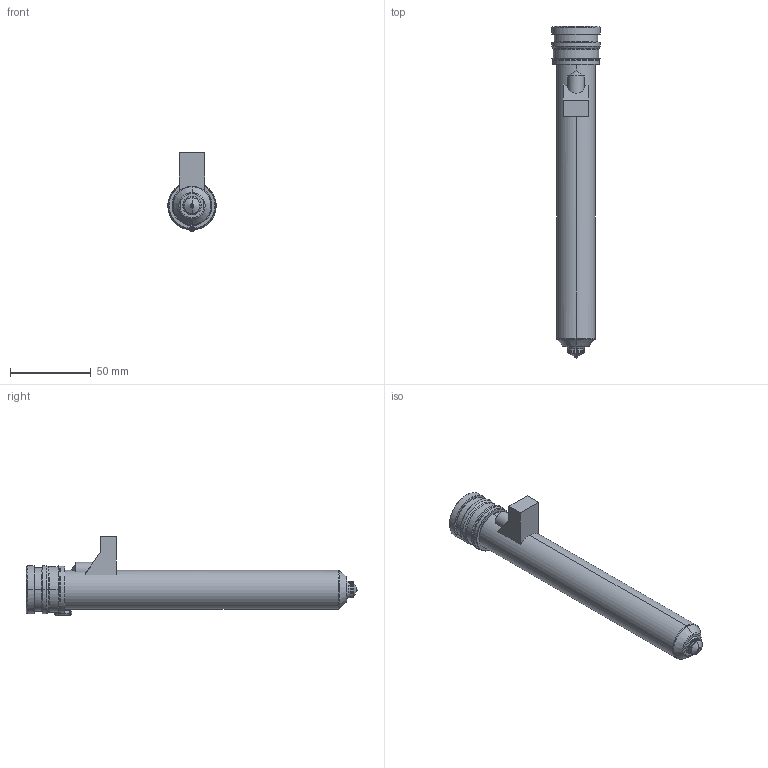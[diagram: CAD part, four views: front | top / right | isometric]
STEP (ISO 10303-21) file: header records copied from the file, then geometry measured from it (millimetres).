
FILE_DESCRIPTION((''),'2;1');
FILE_NAME('MPN-10-29-TS10-186-M','2026-02-05T12:50:13',('UPTIO'),('Thermoplay S.p.A.'),'CREO PARAMETRIC BY PTC INC, 2023494','CREO PARAMETRIC BY PTC INC, 2023494','');
FILE_SCHEMA(('CONFIG_CONTROL_DESIGN','SHAPE_APPEARANCE_LAYERS_GROUPS'));
Length unit declared in the file: millimetre
Products named in the file (1): MPN-10-29-TS10-186-M
Bounding box: 30 x 206 x 49 mm (x, y, z)
Volume: 64084.9 mm3; surface area: 65741.6 mm2
Topology: 3 solids, 5 shells, 542 faces, 1383 edges, 843 vertices
Faces by surface type: cylinder 177, plane 148, bspline 72, torus 67, cone 64, sphere 10, extrusion 4
Entity records: 29226 total; most frequent: CARTESIAN_POINT 13450, ORIENTED_EDGE 2748, DIRECTION 2578, EDGE_CURVE 1374, AXIS2_PLACEMENT_3D 1023, VERTEX_POINT 843, EDGE_LOOP 571, CIRCLE 556
